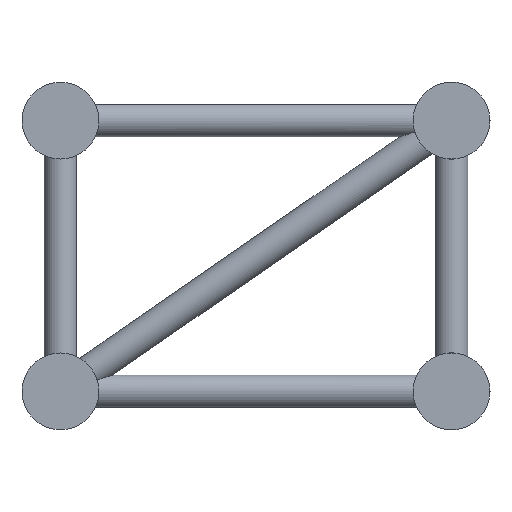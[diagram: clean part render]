
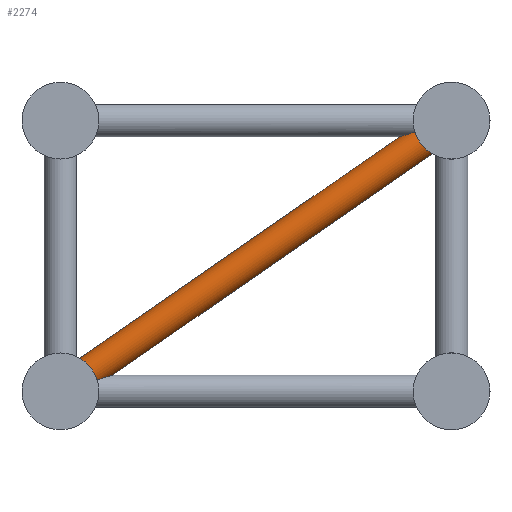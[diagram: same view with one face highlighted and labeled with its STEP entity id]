
A CAD part, left-side view. The second image highlights one B-rep face of the part: STEP entity #2274.
In plain terms, the highlighted cylindrical face has radius 12.5 mm (diameter 25 mm), a full revolution.
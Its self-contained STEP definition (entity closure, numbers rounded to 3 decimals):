
#127=FACE_BOUND('',#618,.T.);
#306=CYLINDRICAL_SURFACE('',#2541,12.5);
#409=FACE_OUTER_BOUND('',#617,.T.);
#617=EDGE_LOOP('',(#1687,#1688));
#618=EDGE_LOOP('',(#1689,#1690));
#839=CIRCLE('',#2536,12.5);
#840=CIRCLE('',#2540,12.5);
#923=ELLIPSE('',#2542,41.923,12.5);
#924=ELLIPSE('',#2543,41.923,12.5);
#1034=VERTEX_POINT('',#4609);
#1036=VERTEX_POINT('',#4613);
#1038=VERTEX_POINT('',#4618);
#1040=VERTEX_POINT('',#4622);
#1272=EDGE_CURVE('',#1036,#1034,#839,.T.);
#1276=EDGE_CURVE('',#1040,#1038,#840,.T.);
#1277=EDGE_CURVE('',#1034,#1036,#923,.T.);
#1278=EDGE_CURVE('',#1038,#1040,#924,.T.);
#1687=ORIENTED_EDGE('',*,*,#1277,.F.);
#1688=ORIENTED_EDGE('',*,*,#1272,.F.);
#1689=ORIENTED_EDGE('',*,*,#1278,.F.);
#1690=ORIENTED_EDGE('',*,*,#1276,.F.);
#2274=ADVANCED_FACE('',(#409,#127),#306,.T.);
#2536=AXIS2_PLACEMENT_3D('',#4615,#3066,#3067);
#2540=AXIS2_PLACEMENT_3D('',#4624,#3075,#3076);
#2541=AXIS2_PLACEMENT_3D('',#4625,#3077,#3078);
#2542=AXIS2_PLACEMENT_3D('',#4626,#3079,#3080);
#2543=AXIS2_PLACEMENT_3D('',#4627,#3081,#3082);
#3066=DIRECTION('center_axis',(0.,0.822,-0.569));
#3067=DIRECTION('ref_axis',(1.,0.,0.));
#3075=DIRECTION('center_axis',(0.,-0.822,
0.569));
#3076=DIRECTION('ref_axis',(1.,0.,0.));
#3077=DIRECTION('center_axis',(0.,-0.822,
0.569));
#3078=DIRECTION('ref_axis',(1.,0.,0.));
#3079=DIRECTION('center_axis',(0.,-0.298,
-0.955));
#3080=DIRECTION('ref_axis',(0.,0.955,-0.298));
#3081=DIRECTION('center_axis',(0.,0.298,
0.955));
#3082=DIRECTION('ref_axis',(0.,0.955,-0.298));
#4609=CARTESIAN_POINT('',(102.177,273.669,-199.087));
#4613=CARTESIAN_POINT('',(82.823,273.669,-199.087));
#4615=CARTESIAN_POINT('Origin',(92.5,278.173,-192.581));
#4618=CARTESIAN_POINT('',(102.177,25.331,-7.913));
#4622=CARTESIAN_POINT('',(82.823,25.331,-7.913));
#4624=CARTESIAN_POINT('Origin',(92.5,20.827,-14.419));
#4625=CARTESIAN_POINT('Origin',(92.5,278.173,-192.581));
#4626=CARTESIAN_POINT('Origin',(92.5,299.,-207.));
#4627=CARTESIAN_POINT('Origin',(92.5,0.,
0.));
